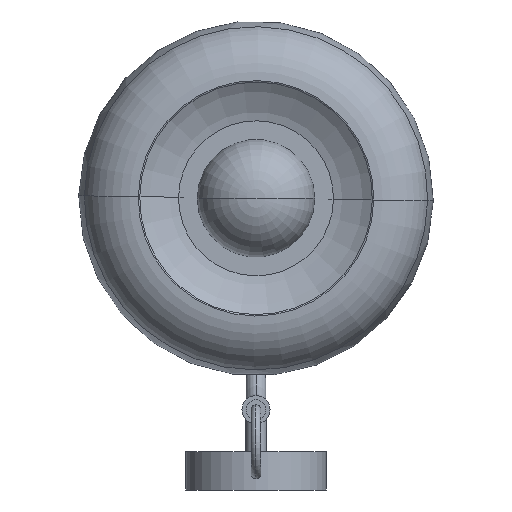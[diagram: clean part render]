
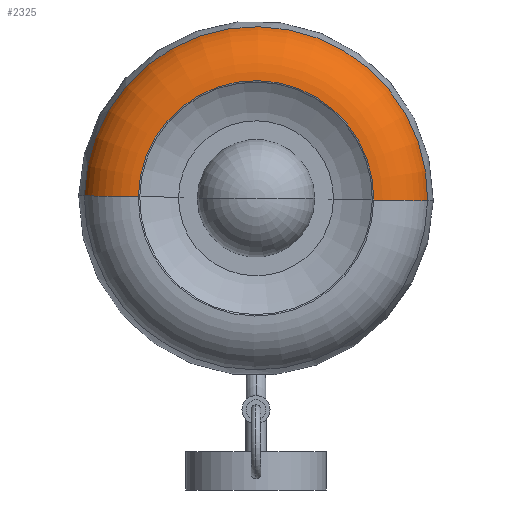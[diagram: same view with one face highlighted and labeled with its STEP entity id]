
A CAD part, front view. The second image highlights one B-rep face of the part: STEP entity #2325.
In plain terms, the highlighted toroidal (fillet/blend) face has major radius 83.531 mm and minor radius 40 mm.
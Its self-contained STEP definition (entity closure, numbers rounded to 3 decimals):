
#4 = EDGE_LOOP ( 'NONE', ( #1766, #668, #2629, #1224 ) ) ;
#71 = EDGE_CURVE ( 'NONE', #2121, #2862, #1514, .T. ) ;
#345 = AXIS2_PLACEMENT_3D ( 'NONE', #1081, #2697, #1311 ) ;
#395 = TOROIDAL_SURFACE ( 'NONE', #2931, 83.531, 40. ) ;
#413 = DIRECTION ( 'NONE',  ( 1., 0., -0.014 ) ) ;
#668 = ORIENTED_EDGE ( 'NONE', *, *, #1573, .T. ) ;
#1081 = CARTESIAN_POINT ( 'NONE',  ( -220.469, 265.488, 867.207 ) ) ;
#1124 = AXIS2_PLACEMENT_3D ( 'NONE', #1572, #1818, #413 ) ;
#1184 = DIRECTION ( 'NONE',  ( -0.014, 0., -1. ) ) ;
#1196 = DIRECTION ( 'NONE',  ( -1., 0., 0.014 ) ) ;
#1224 = ORIENTED_EDGE ( 'NONE', *, *, #2965, .F. ) ;
#1308 = FACE_OUTER_BOUND ( 'NONE', #4, .T. ) ;
#1311 = DIRECTION ( 'NONE',  ( 1., 0., -0.014 ) ) ;
#1349 = CIRCLE ( 'NONE', #1362, 121.807 ) ;
#1362 = AXIS2_PLACEMENT_3D ( 'NONE', #2067, #1385, #1837 ) ;
#1371 = VERTEX_POINT ( 'NONE', #2812 ) ;
#1385 = DIRECTION ( 'NONE',  ( 0., -1., 0. ) ) ;
#1493 = CIRCLE ( 'NONE', #345, 40. ) ;
#1514 = CIRCLE ( 'NONE', #1124, 83.531 ) ;
#1572 = CARTESIAN_POINT ( 'NONE',  ( -136.947, 225.488, 866.006 ) ) ;
#1573 = EDGE_CURVE ( 'NONE', #2312, #2862, #1493, .T. ) ;
#1642 = EDGE_CURVE ( 'NONE', #1371, #2312, #1349, .T. ) ;
#1766 = ORIENTED_EDGE ( 'NONE', *, *, #1642, .T. ) ;
#1818 = DIRECTION ( 'NONE',  ( 0., -1., 0. ) ) ;
#1828 = AXIS2_PLACEMENT_3D ( 'NONE', #2112, #1184, #1196 ) ;
#1835 = CARTESIAN_POINT ( 'NONE',  ( -136.947, 265.488, 866.006 ) ) ;
#1837 = DIRECTION ( 'NONE',  ( 1., 0., -0.014 ) ) ;
#1844 = DIRECTION ( 'NONE',  ( 0., -1., 0. ) ) ;
#1982 = CARTESIAN_POINT ( 'NONE',  ( -53.424, 225.488, 864.806 ) ) ;
#2034 = DIRECTION ( 'NONE',  ( 1., 0., -0.014 ) ) ;
#2067 = CARTESIAN_POINT ( 'NONE',  ( -136.947, 253.87, 866.006 ) ) ;
#2112 = CARTESIAN_POINT ( 'NONE',  ( -53.424, 265.488, 864.806 ) ) ;
#2121 = VERTEX_POINT ( 'NONE', #1982 ) ;
#2312 = VERTEX_POINT ( 'NONE', #2731 ) ;
#2325 = ADVANCED_FACE ( 'NONE', ( #1308 ), #395, .T. ) ;
#2629 = ORIENTED_EDGE ( 'NONE', *, *, #71, .F. ) ;
#2697 = DIRECTION ( 'NONE',  ( 0.014, 0., 1. ) ) ;
#2731 = CARTESIAN_POINT ( 'NONE',  ( -258.741, 253.87, 867.757 ) ) ;
#2787 = CARTESIAN_POINT ( 'NONE',  ( -220.469, 225.488, 867.207 ) ) ;
#2812 = CARTESIAN_POINT ( 'NONE',  ( -15.152, 253.87, 864.256 ) ) ;
#2854 = CIRCLE ( 'NONE', #1828, 40. ) ;
#2862 = VERTEX_POINT ( 'NONE', #2787 ) ;
#2931 = AXIS2_PLACEMENT_3D ( 'NONE', #1835, #1844, #2034 ) ;
#2965 = EDGE_CURVE ( 'NONE', #1371, #2121, #2854, .T. ) ;
